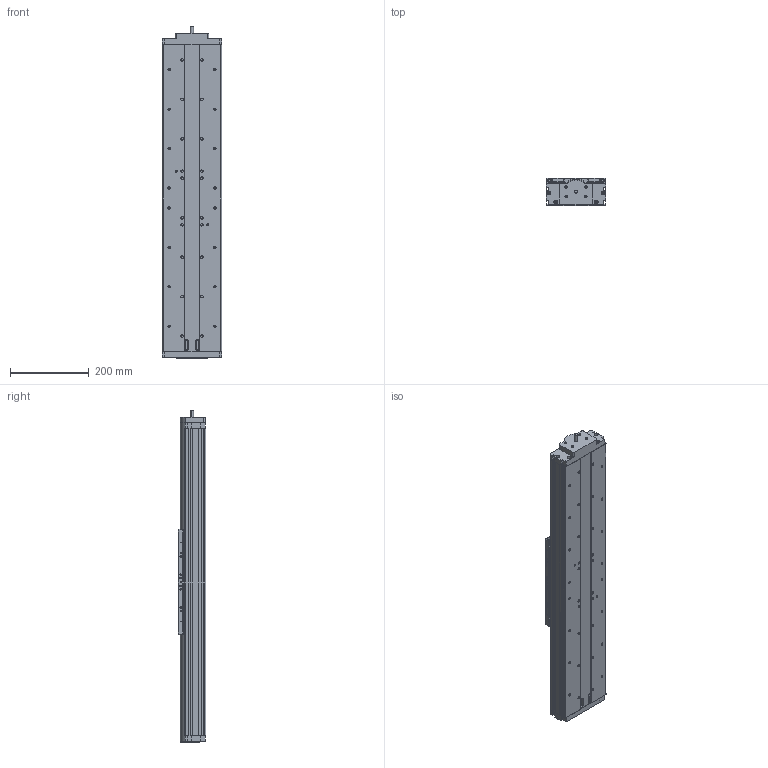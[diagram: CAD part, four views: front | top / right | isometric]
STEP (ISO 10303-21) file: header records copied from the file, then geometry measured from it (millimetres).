
FILE_DESCRIPTION((''),'2;1');
FILE_NAME('406XR-05_ASM','2002-07-12T',('FKrakosh'),(''),'PRO/ENGINEER BY PARAMETRIC TECHNOLOGY CORPORATION, 2000420','PRO/ENGINEER BY PARAMETRIC TECHNOLOGY CORPORATION, 2000420','');
FILE_SCHEMA(('CONFIG_CONTROL_DESIGN'));
Length unit declared in the file: millimetre
Products named in the file (8): 406XR-BASE-05; 406XR-REAR-END-BLK; 406XR-CARRIAGE; 10853610-01; 406XR-FEB-8MM; 10426110; 30321911; 406XR-05_ASM
Assembly tree (8 placements, depth 2):
  406XR-05_ASM
    406XR-BASE-05
    406XR-REAR-END-BLK
    406XR-CARRIAGE
    10853610-01  x2
    406XR-FEB-8MM
    10426110
    30321911
Bounding box: 150 x 69.9 x 841.4 mm (x, y, z)
Volume: 7147821.7 mm3; surface area: 583684.1 mm2
Topology: 8 solids, 62 shells, 912 faces, 2268 edges, 1516 vertices
Faces by surface type: cylinder 470, plane 412, bspline 16, sphere 12, cone 2
Entity records: 25904 total; most frequent: CARTESIAN_POINT 5592, DIRECTION 4470, ORIENTED_EDGE 3814, EDGE_CURVE 2011, AXIS2_PLACEMENT_3D 1721, VERTEX_POINT 1359, VECTOR 1028, LINE 1028
